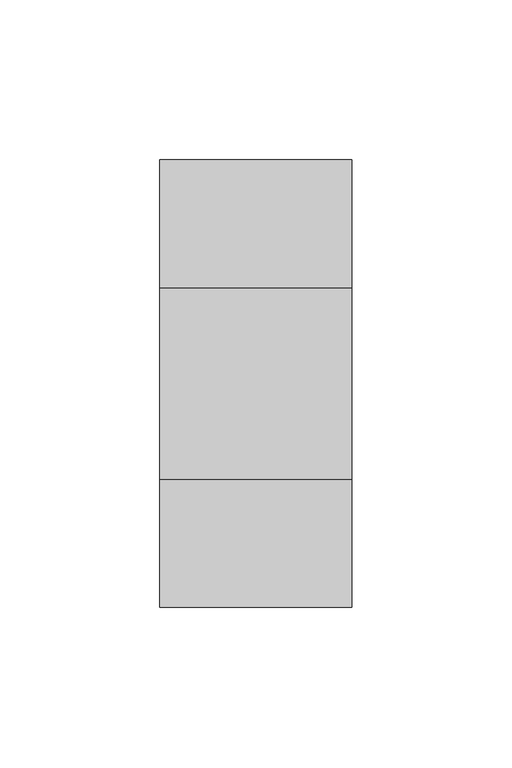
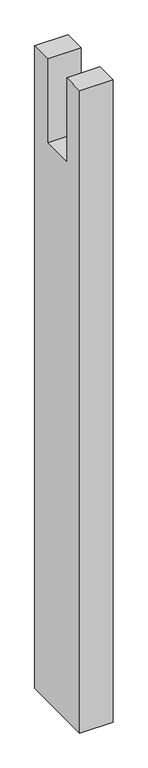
"""IFC4 building model written with IfcOpenShell, lengths in millimetres: proxy geometry, Modelos genéricos 90 : Modelos genéricos 11."""

from ifc_helpers import new_model, si_unit, frame, origin, place, context, project, spatial, polyline, outline, extrude, source, transform, mapped, element, save


def generic_models_63f979b1(model_context):
    return source(origin(), model_context, "Body", "SweptSolid", [
        extrude(outline(polyline([(2018.6238165, 3160.0), (1878.6238165, 3160.0), (1878.6238165, 4380.0), (1918.6238165, 4380.0), (1918.6238165, 4220.0), (1978.6238165, 4220.0), (1978.6238165, 4380.0), (2018.6238165, 4380.0), (2018.6238165, 3160.0)])), frame((1923.4472467, 0.0, 0.0), z_axis=(1.0, 0.0, 0.0), x_axis=(0.0, 1.0, 0.0)), (0.0, 0.0, 1.0), 60.0),
    ])


if __name__ == "__main__":
    model = new_model("IFC4")
    model_context = context("Model", 3, world=origin())
    ifc_project = project(units=[si_unit("LENGTHUNIT", "METRE", prefix="MILLI")], contexts=[model_context])
    site = spatial("IfcSite", under=ifc_project)
    building = spatial("IfcBuilding", under=site)
    placement = place(None, origin())
    generic_models_shape = generic_models_63f979b1(model_context)
    element("IfcBuildingElementProxy", 1, Name="Modelos genéricos 90 : Modelos genéricos 11", ObjectType="Modelos genéricos 90 : Modelos genéricos 11", at=placement, inside=building, context=model_context, shape_type="MappedRepresentation", body=[
        mapped(generic_models_shape, transform((0.0, 0.0, 0.0), x_axis=(1.0, 0.0, 0.0), y_axis=(0.0, 1.0, 0.0), z_axis=(0.0, 0.0, 1.0))),
    ])
    save(model, "model.ifc")
